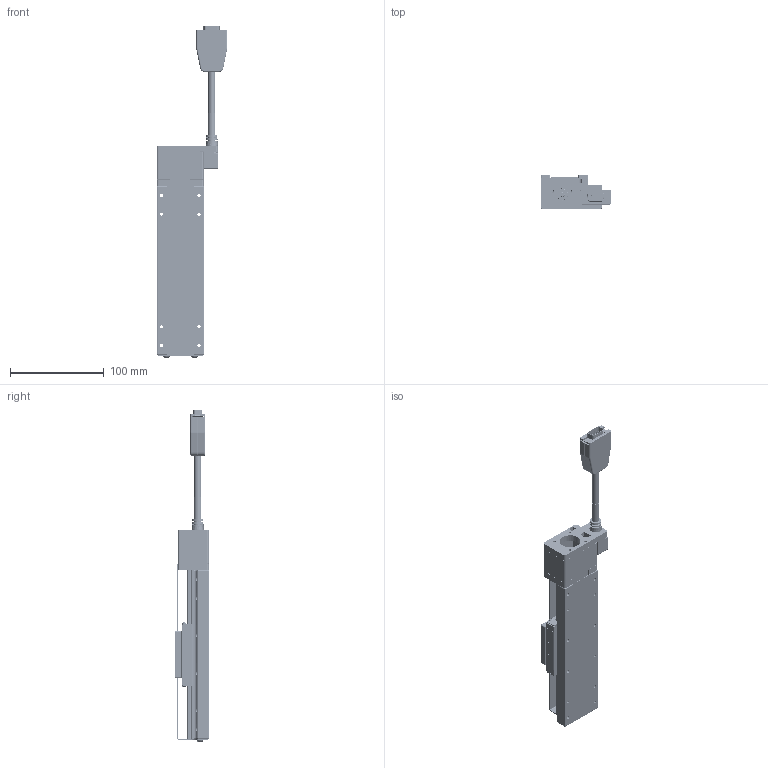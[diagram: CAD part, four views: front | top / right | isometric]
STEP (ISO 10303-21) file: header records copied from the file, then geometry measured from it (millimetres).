
FILE_DESCRIPTION (( 'STEP AP203' ), '1' );
FILE_NAME ('CXC50100-S2?N(42框無馬達).', '2024-01-05T03:03:15', ( '' ), ( '' ), 'SwSTEP 2.0', 'SolidWorks 2019', '' );
FILE_SCHEMA (( 'CONFIG_CONTROL_DESIGN' ));
Length unit declared in the file: millimetre
Products named in the file (9): Group1^CXC50100-S2?N(42框無馬達)_defeature-_GMT; SC03B008_SUS304(鍍鋅黑); SG02B004_SCM435(化鎳); CXC50100-S2OPAN-303_50; Group2^CXC50100-S2?N(42框無馬達)_defeature-_GMT; CXN50-S2OPAN-01_GMT; SD04B006_SD04B006-SCM435(化鎳); CXC50100-S2?N(42框無馬達); CXC50-102-10
Assembly tree (14 placements, depth 2):
  CXC50100-S2?N(42框無馬達)
    Group1^CXC50100-S2?N(42框無馬達)_defeature-_GMT
    Group2^CXC50100-S2?N(42框無馬達)_defeature-_GMT
    CXN50-S2OPAN-01_GMT
    CXC50100-S2OPAN-303_50
    SD04B006_SD04B006-SCM435(化鎳)  x2
    CXC50-102-10  x2
    SC03B008_SUS304(鍍鋅黑)  x4
    SG02B004_SCM435(化鎳)  x2
Bounding box: 75 x 37 x 353.8 mm (x, y, z)
Volume: 71104.1 mm3; surface area: 126617.6 mm2
Topology: 17 solids, 68 shells, 4910 faces, 12483 edges, 7571 vertices
Faces by surface type: plane 1730, cylinder 1484, cone 813, torus 362, bspline 317, sphere 204
Entity records: 154117 total; most frequent: CARTESIAN_POINT 41090, DIRECTION 24134, ORIENTED_EDGE 23320, EDGE_CURVE 11660, AXIS2_PLACEMENT_3D 9196, VERTEX_POINT 7184, LINE 5742, VECTOR 5742
